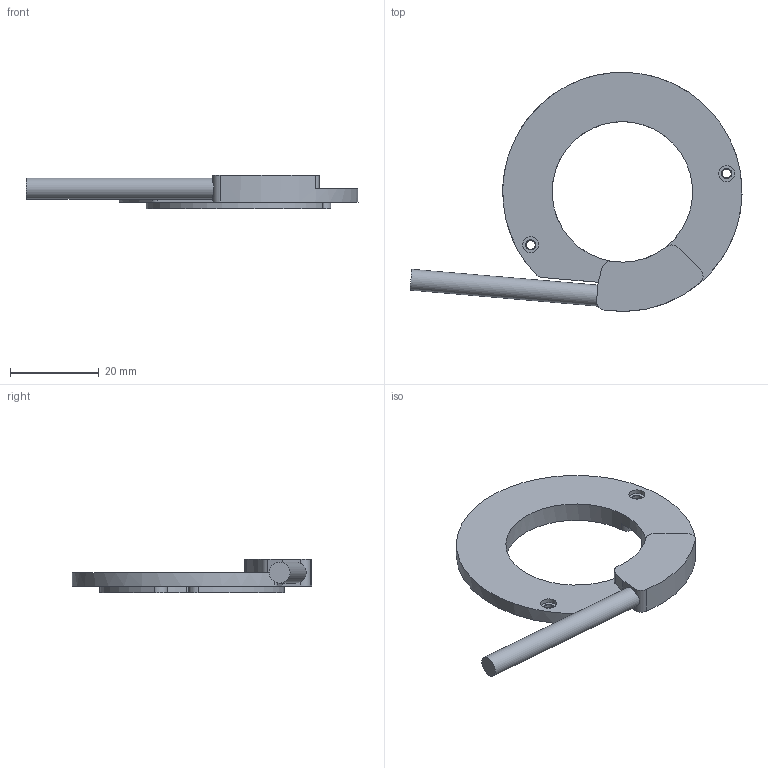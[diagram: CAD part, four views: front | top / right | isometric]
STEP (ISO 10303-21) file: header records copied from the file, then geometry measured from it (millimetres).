
FILE_DESCRIPTION(/* description */ ('Unknown'),/* implementation_level */ '2;1');
FILE_NAME(/* name */ 'DIGITAL HALL MODULE QTR 78_CAD_181016',/* time_stamp */ '2018-10-16T13:20:49+02:00',/* author */ ('Unknown'),/* organization */ ('Unknown'),/* preprocessor_version */ 'ST-DEVELOPER v16.7',/* originating_system */ 'DEX',/* authorisation */ $);
FILE_SCHEMA (('AUTOMOTIVE_DESIGN {1 0 10303 214 3 1 1}'));
Length unit declared in the file: millimetre
Products named in the file (8): 1087821_181015; 1087783_180412_oa_0; Board; N103; 9774010243R_(rev1); N104; Resin QTR DHM 078_180202; QTR DHM CABLE
Assembly tree (8 placements, depth 4):
  1087821_181015
    1087783_180412_oa_0
      Board
      N103
        9774010243R_(rev1)
      N104
        9774010243R_(rev1)
    Resin QTR DHM 078_180202
    QTR DHM CABLE
Bounding box: 74.64 x 53.76 x 7.5 mm (x, y, z)
Volume: 7509.6 mm3; surface area: 7969.1 mm2
Topology: 5 solids, 5 shells, 110 faces, 291 edges, 194 vertices
Faces by surface type: cylinder 75, plane 35
Full cylindrical faces by diameter (mm): 1.567 x2, 2 x2, 2.3 x2, 2.8 x2, 3 x2, 3.6 x2, 4.35 x2, 4.7 x2, 31.6 x1, 32.6 x1
Entity records: 3514 total; most frequent: DIRECTION 637, CARTESIAN_POINT 566, ORIENTED_EDGE 526, EDGE_CURVE 263, AXIS2_PLACEMENT_3D 262, VERTEX_POINT 184, CIRCLE 149, EDGE_LOOP 139
